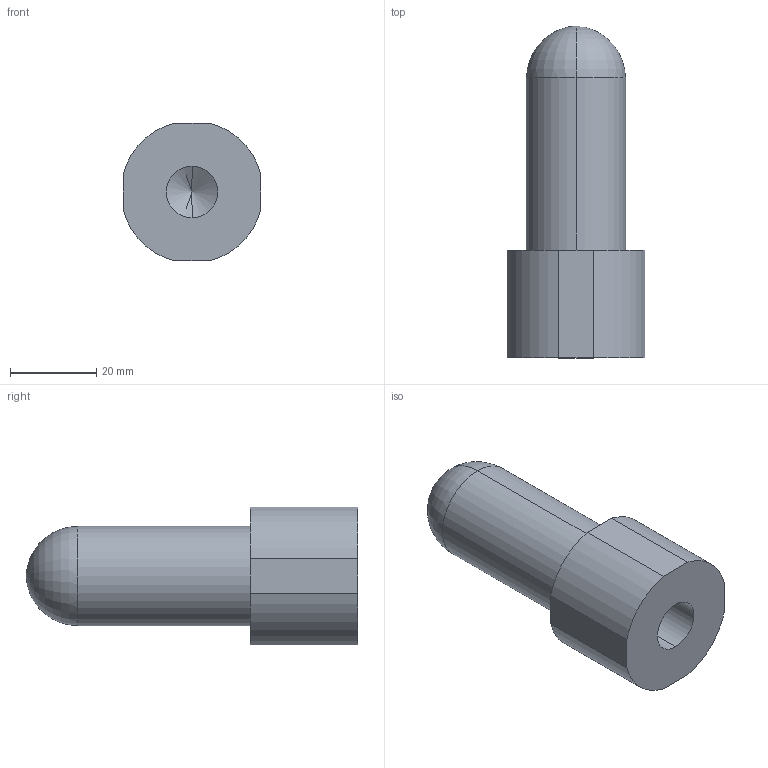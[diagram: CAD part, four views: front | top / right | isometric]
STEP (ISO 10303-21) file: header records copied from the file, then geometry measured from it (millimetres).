
FILE_DESCRIPTION (( 'STEP AP214' ), '1' );
FILE_NAME ('JB-417M12.step', '2023-12-26T00:49:42', ( 'catia' ), ( 'HP Inc.' ), 'SwSTEP 2.0', 'SolidWorks 2021', '' );
FILE_SCHEMA (( 'AUTOMOTIVE_DESIGN' ));
Length unit declared in the file: millimetre
Products named in the file (1): JB-417M12
Bounding box: 32 x 77 x 32 mm (x, y, z)
Volume: 35510.9 mm3; surface area: 11270.2 mm2
Topology: 1 solids, 1 shells, 21 faces, 50 edges, 30 vertices
Faces by surface type: cylinder 10, plane 7, cone 2, torus 2
Entity records: 620 total; most frequent: DIRECTION 112, CARTESIAN_POINT 98, ORIENTED_EDGE 92, EDGE_CURVE 46, AXIS2_PLACEMENT_3D 44, VERTEX_POINT 30, EDGE_LOOP 24, LINE 24
